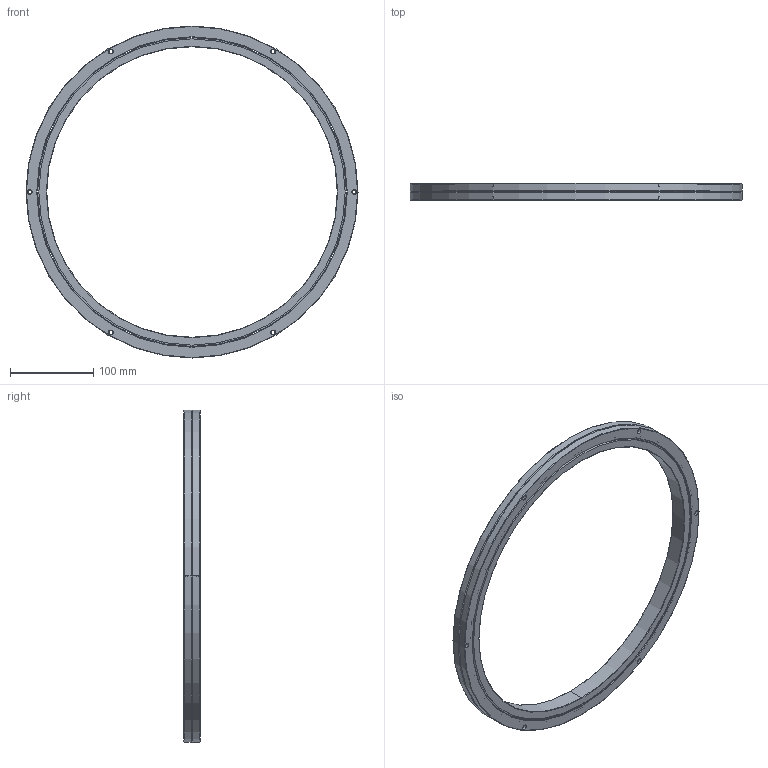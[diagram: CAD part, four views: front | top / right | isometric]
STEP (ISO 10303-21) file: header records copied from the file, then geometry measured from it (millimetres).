
FILE_DESCRIPTION((''),'2;1');
FILE_NAME('RB35020','2015-08-27T',('Administrator'),(''),'PRO/ENGINEER BY PARAMETRIC TECHNOLOGY CORPORATION, 2010180','PRO/ENGINEER BY PARAMETRIC TECHNOLOGY CORPORATION, 2010180','');
FILE_SCHEMA(('AUTOMOTIVE_DESIGN_CC2 { 1 2 10303 214 -1 1 5 2 }'));
Length unit declared in the file: millimetre
Products named in the file (1): RB35020
Bounding box: 400 x 20 x 400 mm (x, y, z)
Volume: 477449.7 mm3; surface area: 176470.9 mm2
Topology: 2 solids, 2 shells, 104 faces, 220 edges, 138 vertices
Faces by surface type: cylinder 62, plane 22, cone 12, torus 8
Entity records: 2965 total; most frequent: DIRECTION 574, CARTESIAN_POINT 462, ORIENTED_EDGE 440, AXIS2_PLACEMENT_3D 250, EDGE_CURVE 220, CIRCLE 146, VERTEX_POINT 138, EDGE_LOOP 138
